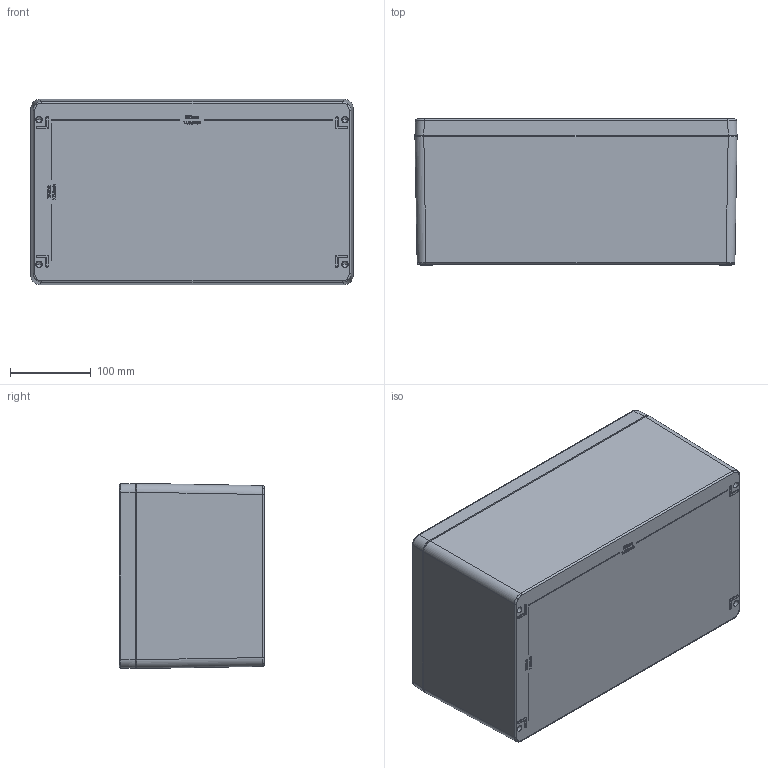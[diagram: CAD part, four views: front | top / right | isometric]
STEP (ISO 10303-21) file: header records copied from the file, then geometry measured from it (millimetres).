
FILE_DESCRIPTION (( 'STEP AP203' ), '1' );
FILE_NAME ('BB095.STEP', '2024-12-28T13:06:25', ( '' ), ( '' ), 'SwSTEP 2.0', 'SolidWorks 2019', '' );
FILE_SCHEMA (( 'CONFIG_CONTROL_DESIGN' ));
Length unit declared in the file: millimetre
Products named in the file (3): BB095; BASE 400X230X180; LID 400X230X180
Assembly tree (2 placements, depth 2):
  BB095
    BASE 400X230X180
    LID 400X230X180
Bounding box: 400 x 181 x 230 mm (x, y, z)
Volume: 2179272.3 mm3; surface area: 819205.5 mm2
Topology: 2 solids, 2 shells, 1497 faces, 3728 edges, 2368 vertices
Faces by surface type: plane 670, bspline 327, cylinder 280, cone 220
Entity records: 60722 total; most frequent: CARTESIAN_POINT 26940, ORIENTED_EDGE 7412, DIRECTION 6077, EDGE_CURVE 3706, VERTEX_POINT 2368, LINE 2063, VECTOR 2063, AXIS2_PLACEMENT_3D 2007
